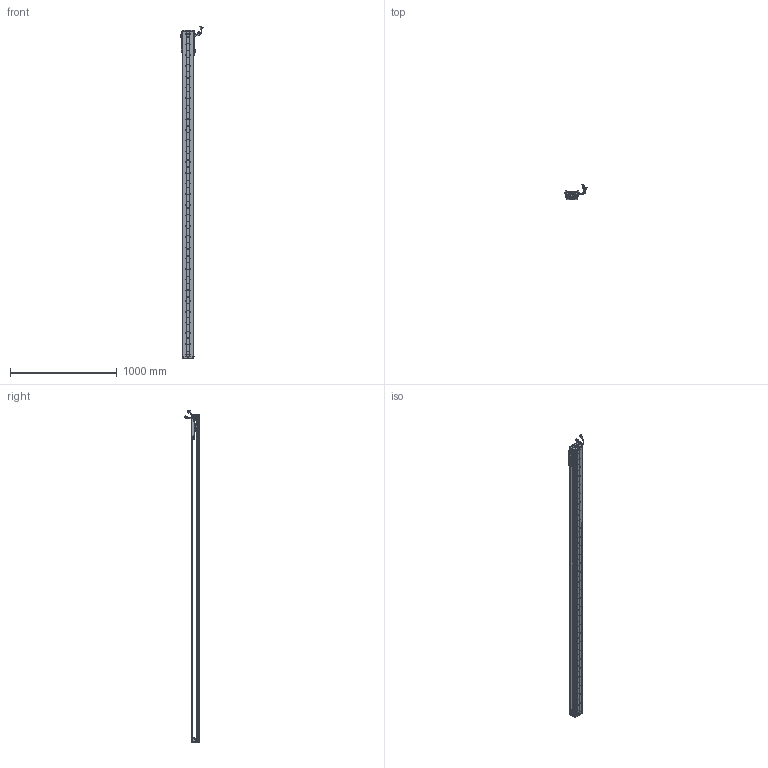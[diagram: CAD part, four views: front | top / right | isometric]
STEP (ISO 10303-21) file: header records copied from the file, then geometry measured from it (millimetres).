
FILE_DESCRIPTION (( 'STEP AP203' ), '1' );
FILE_NAME ('Z2-RY100D-1-L500-B-K.SLDASM_2800.step', '2021-05-17T02:38:29', ( '盈信电脑' ), ( '东莞市道滘镇水果街19号' ), 'SwSTEP 2.0', 'SolidWorks 2016', '' );
FILE_SCHEMA (( 'CONFIG_CONTROL_DESIGN' ));
Length unit declared in the file: millimetre
Products named in the file (36): 覜茼ん672; LABEL; Z-100詩湍傷裔啣; Z-RY100D覜茼んえ; 140蚥薯蝶輸; Z-RY100D詩湍奻揤裔; SCREW-M1.7; Z2-RY100D-1-L500-B-K.SLDASM_2800; 140雄赽晤鎢ん堤盄; Z2-RY100铝滑块（21款）; HARNESS-Part-1; SCREW-M1.6-3; SCALE-Part-2; HARNESS; SCREW-M1.6; SCALE; SEAL; PBU_SHEET; SCREW-M1.6-2; LABEL-Part-1; SCALE-Part-1; SHIELDPLATE; COVER-Part-1; SCREW-M1.6-1; SEAL-Part-1; 100-Z-臏賑輸盄裔(21遴); HARNESS-Part-2; 榋妏寠巭燃_暯_M2_2; HOLDER0; Z2-RY100-L500詩湍90mm遵_2800; Z2-RY100D-500-倰第菁釱_2800; PSLH080_PSLF2; Z-RY100D詩湍狟揤裔; COVER; 080黍杅芛假蚾釱21遴; SCREW-M1.7-1
Assembly tree (43 placements, depth 4):
  Z2-RY100D-1-L500-B-K.SLDASM_2800
    Z2-RY100D-500-倰第菁釱_2800
    Z2-RY100铝滑块（21款）
    PSLH080_PSLF2
      SCALE
        SCALE-Part-1
        SCALE-Part-2
      HARNESS
        HARNESS-Part-1
        HARNESS-Part-2
      LABEL
        LABEL-Part-1
      COVER
        COVER-Part-1
      SEAL
        SEAL-Part-1
      榋妏寠巭燃_暯_M2_2
      SHIELDPLATE
      SCREW-M1.7
      SCREW-M1.7-1
      PBU_SHEET
      SCREW-M1.6
      SCREW-M1.6-1
      SCREW-M1.6-2
      SCREW-M1.6-3
      HOLDER0
    080黍杅芛假蚾釱21遴
    Z-100詩湍傷裔啣  x2
    140蚥薯蝶輸  x2
    覜茼ん672  x3
    Z-RY100D覜茼んえ  x3
    100-Z-臏賑輸盄裔(21遴)
    140雄赽晤鎢ん堤盄
    Z2-RY100-L500詩湍90mm遵_2800
    Z-RY100D詩湍狟揤裔  x2
    Z-RY100D詩湍奻揤裔  x2
Bounding box: 205.79 x 136.11 x 3105.43 mm (x, y, z)
Volume: 5489635.2 mm3; surface area: 2186443.5 mm2
Topology: 38 solids, 38 shells, 3108 faces, 8565 edges, 5484 vertices
Faces by surface type: cylinder 1566, plane 1202, cone 218, torus 69, bspline 53
Entity records: 91329 total; most frequent: CARTESIAN_POINT 19136, DIRECTION 14765, ORIENTED_EDGE 14026, EDGE_CURVE 7013, AXIS2_PLACEMENT_3D 5573, VERTEX_POINT 4552, VECTOR 3619, LINE 3619
